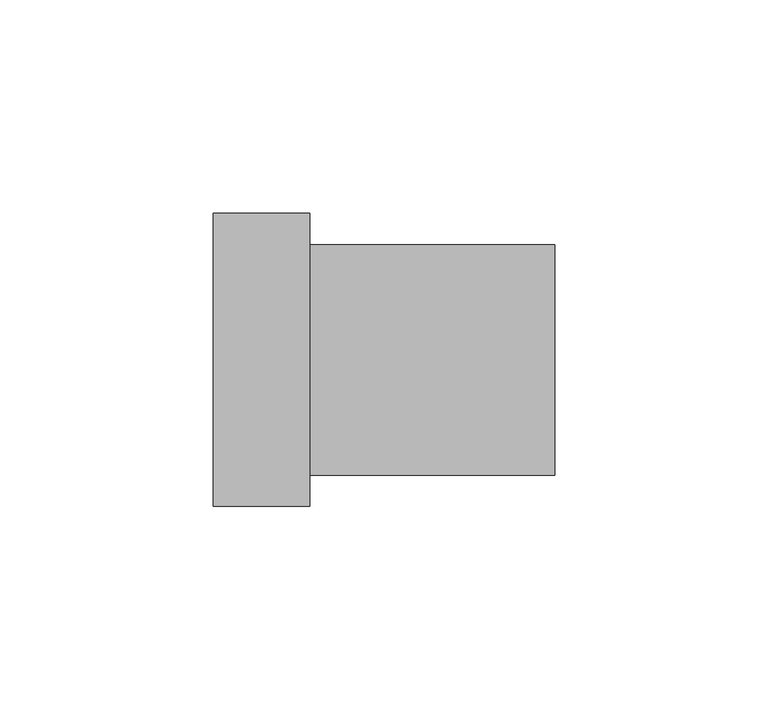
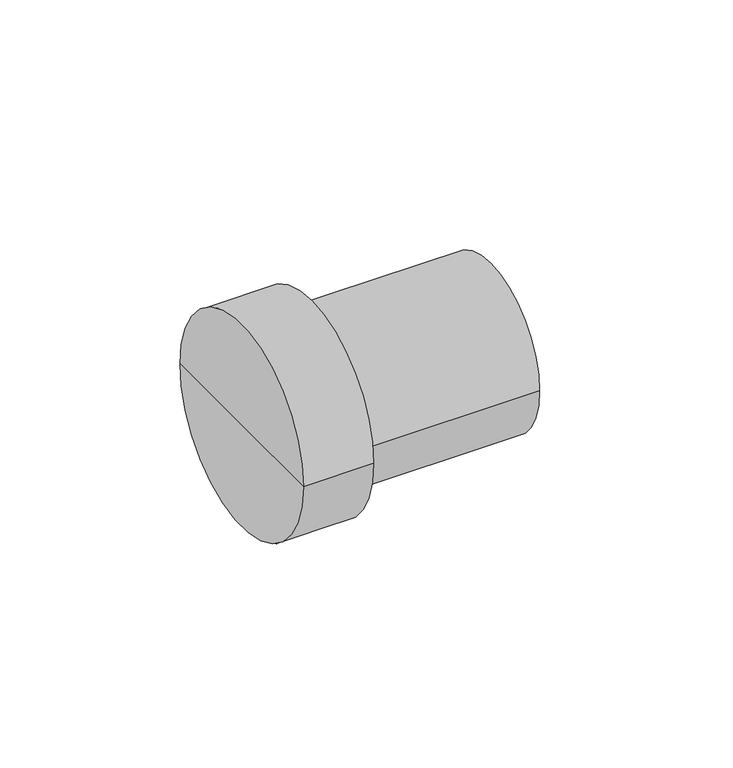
"""IFC4 building model written with IfcOpenShell, lengths in millimetres: cable carrier fitting geometry, Муфта прямая труба-коробка BS : CTA10D-BS50-K41-015."""

from ifc_helpers import new_model, si_unit, frame, origin, place, context, project, spatial, circle_curve, source, transform, mapped, element, save
from ifc_brep_helpers import plane_surface, cylinder_surface, advanced_brep


def cable_carrier_fitting_ce611bea(model_context):
    return source(origin(), model_context, "Body", "AdvancedBrep", [
        advanced_brep(
        [(-17.4590195, -27.0, 0.0), (-17.4590195, 27.0, 0.0), (40.0, 27.0, 0.0), (40.0, -27.0, 0.0), (-40.0, 0.0, 0.0), (-40.0, 34.3253393, 0.0), (-40.0, -34.3253393, 0.0), (40.0, 0.0, 0.0), (-17.4590195, -34.3253393, 0.0), (-17.4590195, 34.3253393, 0.0)],
        [
            (0, 1, circle_curve(frame((-17.4590195, 0.0, 0.0), z_axis=(1.0, 0.0, 0.0), x_axis=(0.0, 1.0, 0.0)), 27.0)),
            (1, 2),
            (2, 3, circle_curve(frame((40.0, 0.0, 0.0), z_axis=(-1.0, 0.0, 0.0), x_axis=(0.0, 1.0, 0.0)), 27.0)),
            (3, 0),
            (1, 0, circle_curve(frame((-17.4590195, 0.0, 0.0), z_axis=(1.0, 0.0, 0.0), x_axis=(0.0, 1.0, 0.0)), 27.0)),
            (3, 2, circle_curve(frame((40.0, 0.0, 0.0), z_axis=(-1.0, 0.0, 0.0), x_axis=(0.0, 1.0, 0.0)), 27.0)),
            (4, 5),
            (5, 6, circle_curve(frame((-40.0, 0.0, 0.0), z_axis=(-1.0, 0.0, 0.0), x_axis=(0.0, 1.0, 0.0)), 34.3253393)),
            (6, 4),
            (6, 5, circle_curve(frame((-40.0, 0.0, 0.0), z_axis=(-1.0, 0.0, 0.0), x_axis=(0.0, 1.0, 0.0)), 34.3253393)),
            (2, 7),
            (7, 3),
            (8, 9, circle_curve(frame((-17.4590195, 0.0, 0.0), z_axis=(1.0, 0.0, 0.0), x_axis=(0.0, 1.0, 0.0)), 34.3253393)),
            (9, 1),
            (0, 8),
            (9, 8, circle_curve(frame((-17.4590195, 0.0, 0.0), z_axis=(1.0, 0.0, 0.0), x_axis=(0.0, 1.0, 0.0)), 34.3253393)),
            (5, 9),
            (8, 6),
        ],
        [
            cylinder_surface(frame((1965.0, 0.0, 0.0), z_axis=(-1.0, 0.0, 0.0), x_axis=(0.0, 1.0, 0.0)), 27.0),
            plane_surface(frame((-40.0, 0.0, 0.0), z_axis=(-1.0, 0.0, 0.0), x_axis=(0.0, 1.0, 0.0))),
            plane_surface(frame((40.0, 0.0, 0.0), z_axis=(1.0, 0.0, 0.0), x_axis=(0.0, 1.0, 0.0))),
            plane_surface(frame((-17.4590195, 0.0, 0.0), z_axis=(1.0, 0.0, 0.0), x_axis=(0.0, 1.0, 0.0))),
            cylinder_surface(frame((1965.0, 0.0, 0.0), z_axis=(-1.0, 0.0, 0.0), x_axis=(0.0, 1.0, 0.0)), 34.3253393),
        ],
        [
            (0, [[1, 2, 3, 4]]),
            (0, [[5, -4, 6, -2]]),
            (1, [[7, 8, 9]]),
            (1, [[-9, 10, -7]]),
            (2, [[-3, 11, 12]]),
            (2, [[-6, -12, -11]]),
            (3, [[13, 14, -1, 15]]),
            (3, [[16, -15, -5, -14]]),
            (4, [[-8, 17, -13, 18]]),
            (4, [[-10, -18, -16, -17]]),
        ],
    ),
    ])


if __name__ == "__main__":
    model = new_model("IFC4")
    model_context = context("Model", 3, world=origin())
    ifc_project = project(units=[si_unit("LENGTHUNIT", "METRE", prefix="MILLI")], contexts=[model_context])
    site = spatial("IfcSite", under=ifc_project)
    building = spatial("IfcBuilding", under=site)
    placement = place(None, origin())
    cable_carrier_fitting_shape = cable_carrier_fitting_ce611bea(model_context)
    element("IfcCableCarrierFitting", 1, ObjectType="Муфта прямая труба-коробка BS : CTA10D-BS50-K41-015", at=placement, inside=building, context=model_context, shape_type="MappedRepresentation", body=[
        mapped(cable_carrier_fitting_shape, transform((0.0, 0.0, 0.0), x_axis=(1.0, 0.0, 0.0), y_axis=(0.0, 1.0, 0.0), z_axis=(0.0, 0.0, 1.0))),
    ])
    save(model, "model.ifc")
